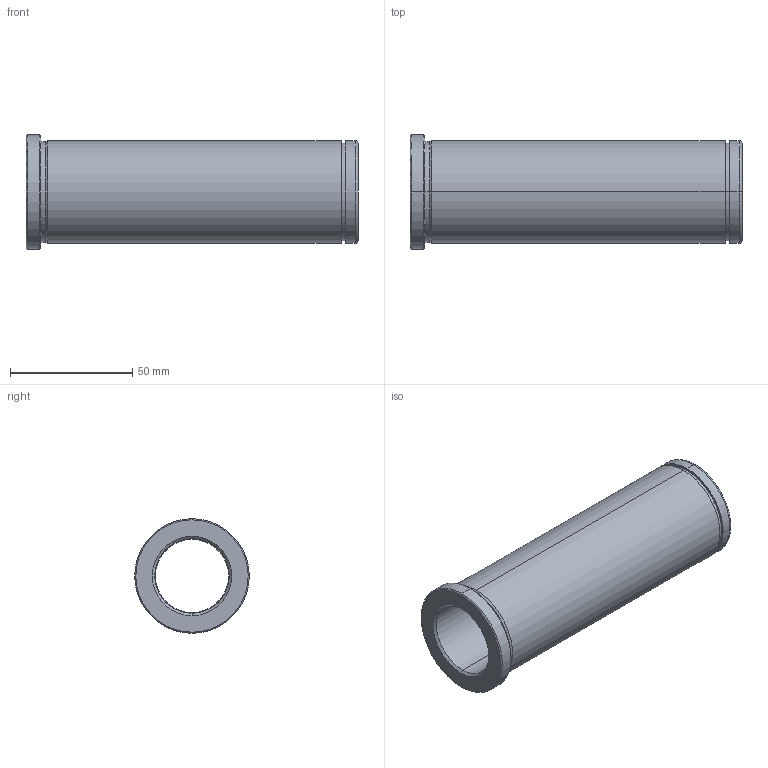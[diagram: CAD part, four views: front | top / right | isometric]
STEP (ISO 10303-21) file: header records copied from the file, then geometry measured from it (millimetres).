
FILE_DESCRIPTION(('CATIA V5 STEP Exchange'),'2;1');
FILE_NAME('C:\Users\Utente\Desktop\IO LAVORO\3D X SITO CF\X SITO\PLASTICA\553\553-30X136.stp','2021-05-26T18:19:25+00:00',('none'),('none'),'CATIA Version 5 Release 20 GA (IN-10)','CATIA V5 STEP AP203','none');
FILE_SCHEMA(('CONFIG_CONTROL_DESIGN'));
Length unit declared in the file: millimetre
Products named in the file (1): 553-30X136
Bounding box: 136 x 47 x 47 mm (x, y, z)
Volume: 92779.6 mm3; surface area: 32987.8 mm2
Topology: 1 solids, 1 shells, 32 faces, 102 edges, 76 vertices
Faces by surface type: cylinder 14, cone 8, plane 6, torus 4
Entity records: 1340 total; most frequent: CARTESIAN_POINT 399, ORIENTED_EDGE 204, DIRECTION 150, EDGE_CURVE 102, AXIS2_PLACEMENT_3D 97, VERTEX_POINT 76, CIRCLE 64, EDGE_LOOP 38
